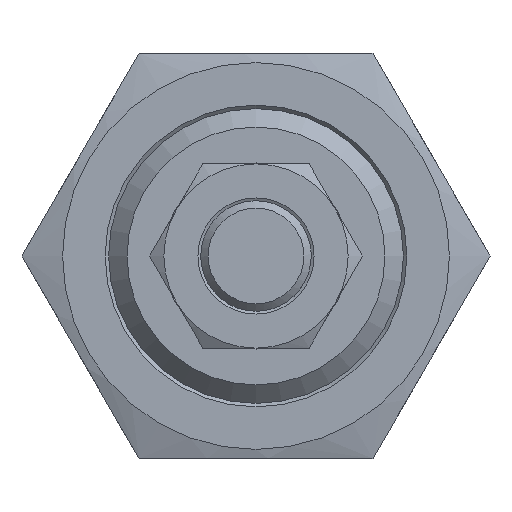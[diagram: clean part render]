
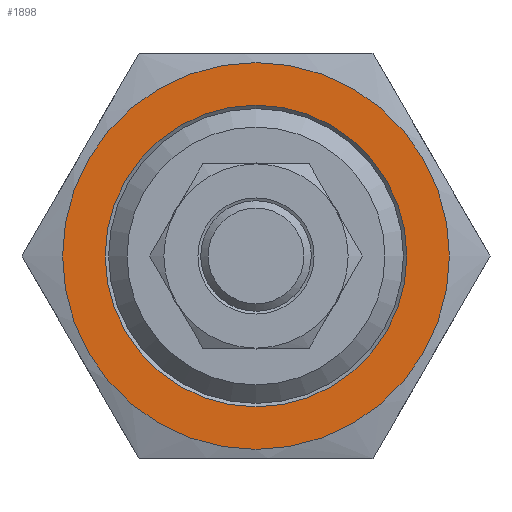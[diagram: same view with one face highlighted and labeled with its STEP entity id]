
A CAD part, front view. The second image highlights one B-rep face of the part: STEP entity #1898.
In plain terms, the highlighted planar face has unit normal (0, -1, 0) as drawn and (0, 0, 1) by its records, which use the part's own axes.
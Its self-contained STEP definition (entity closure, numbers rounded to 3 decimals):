
#332=PLANE('',#3107);
#757=ORIENTED_EDGE('',*,*,#1009,.T.);
#758=ORIENTED_EDGE('',*,*,#1010,.T.);
#1009=EDGE_CURVE('',#1186,#1186,#1309,.F.);
#1010=EDGE_CURVE('',#1187,#1187,#1310,.T.);
#1186=VERTEX_POINT('',#4309);
#1187=VERTEX_POINT('',#4311);
#1309=CIRCLE('',#3108,8.188);
#1310=CIRCLE('',#3109,10.5);
#1509=EDGE_LOOP('',(#757));
#1510=EDGE_LOOP('',(#758));
#1722=FACE_BOUND('',#1509,.T.);
#1723=FACE_BOUND('',#1510,.T.);
#1898=ADVANCED_FACE('',(#1722,#1723),#332,.T.);
#3107=AXIS2_PLACEMENT_3D('',#4307,#3677,#3678);
#3108=AXIS2_PLACEMENT_3D('',#4308,#3679,#3680);
#3109=AXIS2_PLACEMENT_3D('',#4310,#3681,#3682);
#3677=DIRECTION('',(0.,0.,1.));
#3678=DIRECTION('',(1.,0.,0.));
#3679=DIRECTION('',(0.,0.,1.));
#3680=DIRECTION('',(1.,0.,0.));
#3681=DIRECTION('',(0.,0.,1.));
#3682=DIRECTION('',(1.,0.,0.));
#4307=CARTESIAN_POINT('',(0.,0.,3.));
#4308=CARTESIAN_POINT('',(0.,0.,3.));
#4309=CARTESIAN_POINT('',(8.188,0.,3.));
#4310=CARTESIAN_POINT('',(0.,0.,3.));
#4311=CARTESIAN_POINT('',(10.5,0.,3.));
